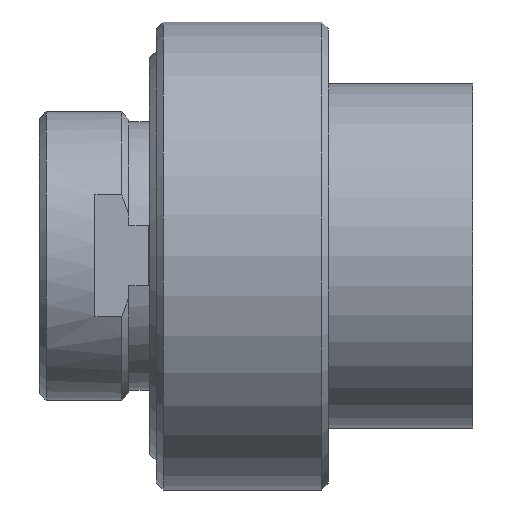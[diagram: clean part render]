
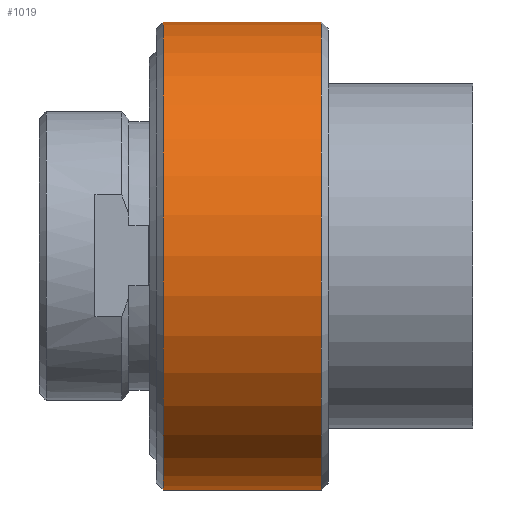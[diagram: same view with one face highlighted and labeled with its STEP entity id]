
A CAD part, top view. The second image highlights one B-rep face of the part: STEP entity #1019.
In plain terms, the highlighted cylindrical face has radius 34 mm (diameter 68 mm), a partial arc.
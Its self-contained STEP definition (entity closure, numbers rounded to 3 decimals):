
#895=DIRECTION('',(1.,0.,0.));
#896=VECTOR('',#895,23.);
#897=CARTESIAN_POINT('',(-12.,-50.5,0.));
#898=LINE('',#897,#896);
#899=CARTESIAN_POINT('',(-12.,-16.5,0.));
#900=DIRECTION('',(-1.,0.,0.));
#901=DIRECTION('',(0.,-1.,0.));
#902=AXIS2_PLACEMENT_3D('',#899,#900,#901);
#904=DIRECTION('',(1.,0.,0.));
#905=VECTOR('',#904,23.);
#906=CARTESIAN_POINT('',(-12.,17.5,0.));
#907=LINE('',#906,#905);
#912=CARTESIAN_POINT('',(11.,-16.5,0.));
#913=DIRECTION('',(-1.,0.,0.));
#914=DIRECTION('',(0.,-1.,0.));
#915=AXIS2_PLACEMENT_3D('',#912,#913,#914);
#937=CARTESIAN_POINT('',(-12.,-50.5,0.));
#939=VERTEX_POINT('',#937);
#940=CARTESIAN_POINT('',(11.,-50.5,0.));
#941=VERTEX_POINT('',#940);
#945=CARTESIAN_POINT('',(-12.,17.5,0.));
#947=VERTEX_POINT('',#945);
#948=CARTESIAN_POINT('',(11.,17.5,0.));
#949=VERTEX_POINT('',#948);
#1007=CARTESIAN_POINT('',(-14.25,-16.5,0.));
#1008=DIRECTION('',(1.,0.,0.));
#1009=DIRECTION('',(0.,-1.,0.));
#1010=AXIS2_PLACEMENT_3D('',#1007,#1008,#1009);
#1011=CYLINDRICAL_SURFACE('',#1010,34.);
#1012=ORIENTED_EDGE('',*,*,#997,.F.);
#1013=ORIENTED_EDGE('',*,*,#974,.T.);
#1014=ORIENTED_EDGE('',*,*,#1001,.T.);
#1016=ORIENTED_EDGE('',*,*,#1015,.F.);
#1017=EDGE_LOOP('',(#1012,#1013,#1014,#1016));
#1018=FACE_OUTER_BOUND('',#1017,.F.);
#1019=ADVANCED_FACE('',(#1018),#1011,.T.);
#903=CIRCLE('',#902,34.);
#916=CIRCLE('',#915,34.);
#974=EDGE_CURVE('',#939,#947,#903,.T.);
#997=EDGE_CURVE('',#939,#941,#898,.T.);
#1001=EDGE_CURVE('',#947,#949,#907,.T.);
#1015=EDGE_CURVE('',#941,#949,#916,.T.);
